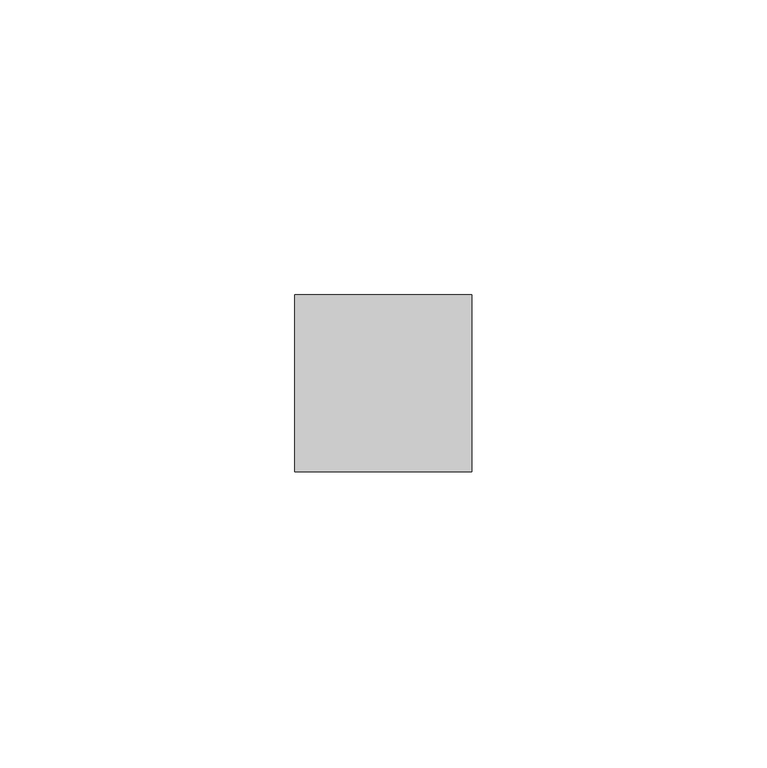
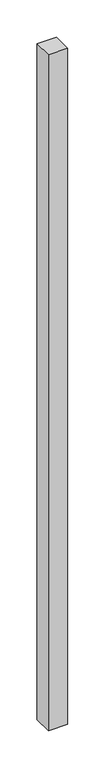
"""IFC4 building model written with IfcOpenShell, lengths in millimetres: member geometry, 矩形竖梃 : 30mm 正方形."""

import ifcopenshell
import ifcopenshell.guid

model = None  # the IFC model being written
_history = None  # IfcOwnerHistory: only IFC2X3 demands one
_inside = {}  # id of a spatial element -> (the spatial element, [elements in it])
_under = {}  # id of a project, library or spatial element -> (it, [spatial elements below it])
_declared = {}  # id of a project -> (the project, [libraries it declares])
_typed = {}  # id of a type object -> (the type object, [elements of that type])
_made_of = {}  # id of a material, layer set ... -> (it, [elements and type objects made of it])


def new_model(schema):
    """Start an empty IFC model of exactly this schema.

    Asked for "IFC4X3", IfcOpenShell would pick the latest addendum, in which some entities
    have other attributes; the version numbers below select the first issue.
    IFC2X3 requires an IfcOwnerHistory on every rooted entity: one is made here for all.
    """
    global model, _history
    if schema == "IFC4X3":
        model = ifcopenshell.file(schema_version=(4, 3, 0, 0))
    else:
        model = ifcopenshell.file(schema=schema)
    _inside.clear()
    _under.clear()
    _declared.clear()
    _typed.clear()
    _made_of.clear()
    _history = None
    if model.schema == "IFC2X3":
        org = make("IfcOrganization", Name="unknown")
        user = make(
            "IfcPersonAndOrganization",
            ThePerson=make("IfcPerson", FamilyName="unknown"),
            TheOrganization=org,
        )
        app = make(
            "IfcApplication",
            ApplicationDeveloper=org,
            Version="unknown",
            ApplicationFullName="unknown",
            ApplicationIdentifier="unknown",
        )
        _history = make(
            "IfcOwnerHistory",
            OwningUser=user,
            OwningApplication=app,
            ChangeAction="ADDED",
            CreationDate=0,
        )
    return model


def make(cls, **values):
    """One entity of the class cls with the attributes given. An attribute that is None is left unset."""
    return model.create_entity(
        cls, **{name: value for name, value in values.items() if value is not None}
    )


def rooted(cls, **values):
    """An entity with a GlobalId (a new one), such as an element, a storey or a relation."""
    return make(cls, GlobalId=ifcopenshell.guid.new(), OwnerHistory=_history, **values)


def si_unit(unit_type, name, prefix=None):
    """IfcSIUnit, for example si_unit("LENGTHUNIT", "METRE", prefix="MILLI")."""
    return make("IfcSIUnit", UnitType=unit_type, Prefix=prefix, Name=name)


def assignment(units):
    """IfcUnitAssignment: the units of a project."""
    return None if units is None else make("IfcUnitAssignment", Units=units)


def point(xyz):
    """IfcCartesianPoint."""
    return None if xyz is None else make("IfcCartesianPoint", Coordinates=xyz)


def direction(xyz):
    """IfcDirection."""
    return None if xyz is None else make("IfcDirection", DirectionRatios=xyz)


def frame(location, z_axis=None, x_axis=None):
    """IfcAxis2Placement3D, a coordinate frame: its origin and axes. An axis left out is left unset."""
    return make(
        "IfcAxis2Placement3D",
        Location=point(location),
        Axis=direction(z_axis),
        RefDirection=direction(x_axis),
    )


def origin():
    """The frame at (0, 0, 0) with its axes left unset."""
    return frame((0.0, 0.0, 0.0))


def place(relative_to, where):
    """IfcLocalPlacement: puts the frame where relative to a parent placement (None: the world)."""
    return make(
        "IfcLocalPlacement", PlacementRelTo=relative_to, RelativePlacement=where
    )


def context(
    kind, dimensions, precision=None, world=None, true_north=None, identifier=None
):
    """IfcGeometricRepresentationContext, for example the 3D "Model" context."""
    return make(
        "IfcGeometricRepresentationContext",
        ContextIdentifier=identifier,
        ContextType=kind,
        CoordinateSpaceDimension=dimensions,
        Precision=precision,
        WorldCoordinateSystem=world,
        TrueNorth=true_north,
    )


def project(units=None, contexts=None):
    """IfcProject with its units and contexts."""
    return rooted(
        "IfcProject",
        Name="project",
        RepresentationContexts=contexts,
        UnitsInContext=assignment(units),
    )


def spatial(cls, under=None, at=None, **own):
    """A site, building, storey or space (cls), placed at a placement, below another one or the project."""
    s = rooted(cls, ObjectPlacement=at, **own)
    if under is not None:
        _under.setdefault(under.id(), (under, []))[1].append(s)
    return s


def polyline(points):
    """IfcPolyline through the points."""
    return make("IfcPolyline", Points=[point(p) for p in points])


def outline(outer, holes=None, kind="AREA"):
    """IfcArbitraryClosedProfileDef: a profile drawn as a closed curve; with holes, ...WithVoids."""
    if holes is None:
        return make("IfcArbitraryClosedProfileDef", ProfileType=kind, OuterCurve=outer)
    return make(
        "IfcArbitraryProfileDefWithVoids",
        ProfileType=kind,
        OuterCurve=outer,
        InnerCurves=holes,
    )


def extrude(swept, where, along, depth):
    """IfcExtrudedAreaSolid: the profile swept, set in the frame where, extruded along a direction by depth."""
    return make(
        "IfcExtrudedAreaSolid",
        SweptArea=swept,
        Position=where,
        ExtrudedDirection=direction(along),
        Depth=depth,
    )


def shape(context_of_items, identifier, shape_type, items):
    """IfcShapeRepresentation: the items that make up one representation, for example the "Body"."""
    return make(
        "IfcShapeRepresentation",
        ContextOfItems=context_of_items,
        RepresentationIdentifier=identifier,
        RepresentationType=shape_type,
        Items=items,
    )


def source(mapping_origin, context_of_items, identifier, shape_type, items):
    """IfcRepresentationMap: a shape defined once, which mapped items show again and again."""
    return make(
        "IfcRepresentationMap",
        MappingOrigin=mapping_origin,
        MappedRepresentation=shape(context_of_items, identifier, shape_type, items),
    )


def transform(
    local_origin,
    x_axis=None,
    y_axis=None,
    z_axis=None,
    scale=None,
    scale2=None,
    scale3=None,
    uniform=True,
):
    """IfcCartesianTransformationOperator3D, or its non-uniform kind. x_axis, y_axis, z_axis: its Axis1, 2, 3."""
    if uniform:
        return make(
            "IfcCartesianTransformationOperator3D",
            Axis1=direction(x_axis),
            Axis2=direction(y_axis),
            LocalOrigin=point(local_origin),
            Scale=scale,
            Axis3=direction(z_axis),
        )
    return make(
        "IfcCartesianTransformationOperator3DnonUniform",
        Axis1=direction(x_axis),
        Axis2=direction(y_axis),
        LocalOrigin=point(local_origin),
        Scale=scale,
        Axis3=direction(z_axis),
        Scale2=scale2,
        Scale3=scale3,
    )


def mapped(mapping_source, mapping_target):
    """IfcMappedItem: shows the shape of a source again, moved by a transform."""
    return make(
        "IfcMappedItem", MappingSource=mapping_source, MappingTarget=mapping_target
    )


def made_of(thing, what):
    """Note that an element or type object is made of a material, layer set ...; save() writes the relation."""
    if what is not None:
        _made_of.setdefault(what.id(), (what, []))[1].append(thing)
    return thing


def element(
    cls,
    number,
    at=None,
    inside=None,
    cuts=None,
    type_object=None,
    material=None,
    context=None,
    identifier="Body",
    shape_type=None,
    held_by="IfcProductDefinitionShape",
    body=None,
    shapes=None,
    **own,
):
    """One element of the class cls, such as IfcWall. Its Tag is "e" and its number.

    at: its placement. inside: the storey or other place that contains it. cuts: it is an
    opening in that element (IfcRelVoidsElement). A single representation is given by context,
    identifier, shape_type and body (its items); several are given by shapes. held_by: the class
    of the entity that holds the representations. save() writes the other relations.
    """
    e = rooted(cls, Tag="e%d" % number, ObjectPlacement=at, **own)
    if body is not None:
        shapes = [shape(context, identifier, shape_type, body)]
    if shapes is not None:
        e.Representation = make(held_by, Representations=shapes)
    if inside is not None:
        _inside.setdefault(inside.id(), (inside, []))[1].append(e)
    if cuts is not None:
        rooted(
            "IfcRelVoidsElement", RelatingBuildingElement=cuts, RelatedOpeningElement=e
        )
    if type_object is not None:
        _typed.setdefault(type_object.id(), (type_object, []))[1].append(e)
    return made_of(e, material)


def aggregate(whole, parts):
    """IfcRelAggregates: a whole, such as a stair, and the parts it consists of."""
    return rooted("IfcRelAggregates", RelatingObject=whole, RelatedObjects=parts)


def save(model, path):
    """Write the relations noted so far, then the file.

    IfcRelAggregates (storeys below a building ...), IfcRelContainedInSpatialStructure (elements
    in a storey), IfcRelDefinesByType, IfcRelAssociatesMaterial and IfcRelDeclares: one each for
    every whole, place, type object, material and project.
    """
    for whole, parts in _under.values():
        aggregate(whole, parts)
    for where, things in _inside.values():
        rooted(
            "IfcRelContainedInSpatialStructure",
            RelatedElements=things,
            RelatingStructure=where,
        )
    for kind, things in _typed.values():
        rooted("IfcRelDefinesByType", RelatedObjects=things, RelatingType=kind)
    for what, things in _made_of.values():
        rooted("IfcRelAssociatesMaterial", RelatedObjects=things, RelatingMaterial=what)
    for by, libraries in _declared.values():
        rooted("IfcRelDeclares", RelatingContext=by, RelatedDefinitions=libraries)
    model.write(path)


def member_e9ca11cf(model_context):
    return source(origin(), model_context, "Body", "SweptSolid", [
        extrude(outline(polyline([(0.0, 15.0), (0.0, -15.0), (-30.0, -15.0), (-30.0, 15.0), (0.0, 15.0)])), frame((0.0, 0.0, -1105.0), z_axis=(0.0, 0.0, 1.0), x_axis=(1.0, 0.0, 0.0)), (0.0, 0.0, 1.0), 1105.0),
    ])


if __name__ == "__main__":
    model = new_model("IFC4")
    model_context = context("Model", 3, world=origin())
    ifc_project = project(units=[si_unit("LENGTHUNIT", "METRE", prefix="MILLI")], contexts=[model_context])
    site = spatial("IfcSite", under=ifc_project)
    building = spatial("IfcBuilding", under=site)
    placement = place(None, origin())
    member_shape = member_e9ca11cf(model_context)
    element("IfcMember", 1, ObjectType="矩形竖梃 : 30mm 正方形", at=placement, inside=building, context=model_context, shape_type="MappedRepresentation", body=[
        mapped(member_shape, transform((0.0, 0.0, 0.0), x_axis=(1.0, 0.0, 0.0), y_axis=(0.0, 1.0, 0.0), z_axis=(0.0, 0.0, 1.0))),
    ])
    save(model, "model.ifc")
